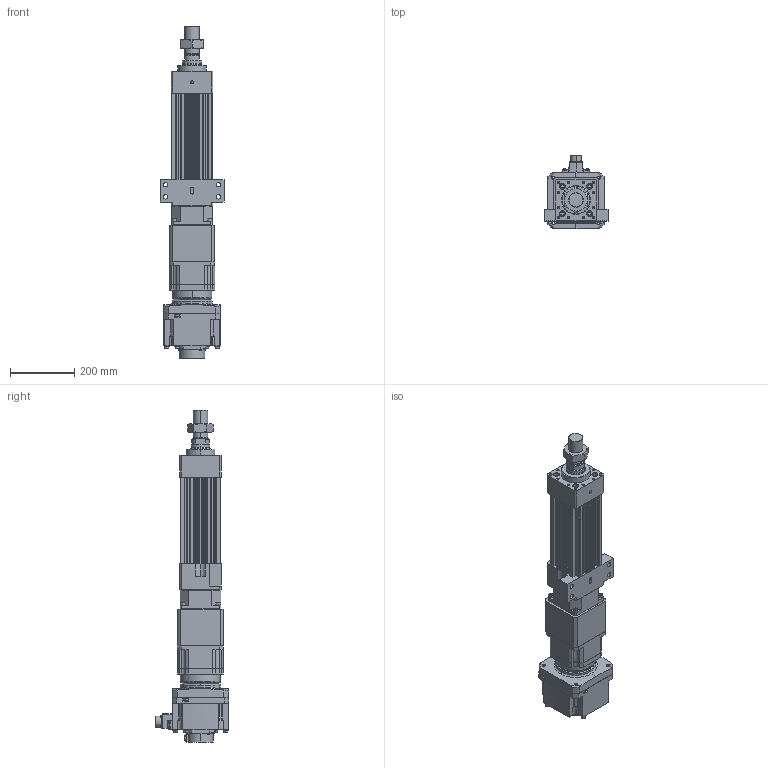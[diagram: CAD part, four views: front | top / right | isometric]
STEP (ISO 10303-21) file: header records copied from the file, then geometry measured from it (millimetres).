
FILE_DESCRIPTION (( 'STEP AP203' ), '1' );
FILE_NAME ('HES130FS(HS)-S050-W020G00-M-FFC.STEP', '2023-01-30T13:00:03', ( 'tms' ), ( '' ), 'SwSTEP 2.0', 'SolidWorks 2013', '' );
FILE_SCHEMA (( 'CONFIG_CONTROL_DESIGN' ));
Length unit declared in the file: millimetre
Products named in the file (9): AB1421; HES130FS(HS)-S050-W020G00-M-FFC; AB142-003[HG-SR352]; P1301500001; HES130-S050-G142-FFC; M45X1.5P; HES130 ROD M ST050; HG-SR202; P0403500801
Assembly tree (8 placements, depth 3):
  HES130FS(HS)-S050-W020G00-M-FFC
    HES130-S050-G142-FFC
    HES130 ROD M ST050
    M45X1.5P
    AB142-003[HG-SR352]
      AB1421
      P1301500001
      P0403500801
    HG-SR202
Bounding box: 200 x 228.85 x 1037.5 mm (x, y, z)
Volume: 9487894.6 mm3; surface area: 1153974.4 mm2
Topology: 4 solids, 22 shells, 1546 faces, 3982 edges, 2565 vertices
Faces by surface type: cylinder 694, plane 586, cone 184, bspline 76, torus 6
Entity records: 55838 total; most frequent: CARTESIAN_POINT 16862, DIRECTION 8160, ORIENTED_EDGE 7822, EDGE_CURVE 3933, AXIS2_PLACEMENT_3D 3080, VERTEX_POINT 2565, VECTOR 2000, LINE 2000
